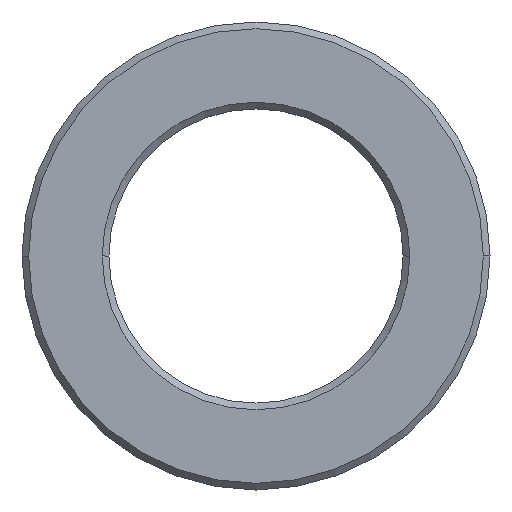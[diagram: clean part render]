
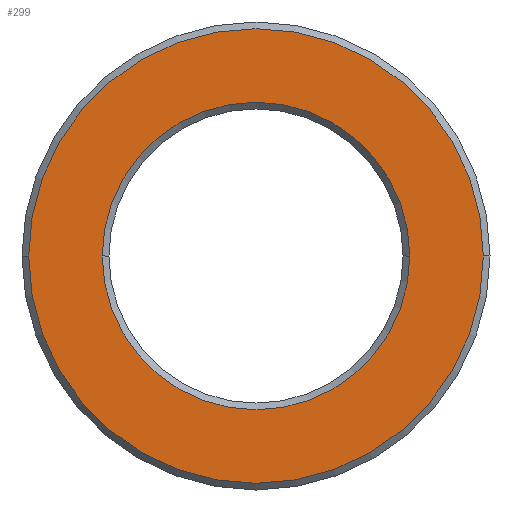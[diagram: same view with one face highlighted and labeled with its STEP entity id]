
A CAD part, left-side view. The second image highlights one B-rep face of the part: STEP entity #299.
In plain terms, the highlighted planar face has unit normal (-1, 0, 0).
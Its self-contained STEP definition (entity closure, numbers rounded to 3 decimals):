
#63 = VERTEX_POINT ( 'NONE', #486 ) ;
#65 = EDGE_CURVE ( 'NONE', #66, #63, #485, .T. ) ;
#66 = VERTEX_POINT ( 'NONE', #480 ) ;
#88 = EDGE_LOOP ( 'NONE', ( #300, #294 ) ) ;
#120 = EDGE_CURVE ( 'NONE', #121, #122, #418, .T. ) ;
#121 = VERTEX_POINT ( 'NONE', #413 ) ;
#122 = VERTEX_POINT ( 'NONE', #412 ) ;
#272 = ORIENTED_EDGE ( 'NONE', *, *, #120, .T. ) ;
#290 = EDGE_LOOP ( 'NONE', ( #291, #272 ) ) ;
#291 = ORIENTED_EDGE ( 'NONE', *, *, #292, .T. ) ;
#292 = EDGE_CURVE ( 'NONE', #122, #121, #795, .T. ) ;
#294 = ORIENTED_EDGE ( 'NONE', *, *, #295, .T. ) ;
#295 = EDGE_CURVE ( 'NONE', #63, #66, #790, .T. ) ;
#299 = ADVANCED_FACE ( 'NONE', ( #785, #784 ), #783, .T. ) ;
#300 = ORIENTED_EDGE ( 'NONE', *, *, #65, .T. ) ;
#412 = CARTESIAN_POINT ( 'NONE',  ( -13.5, 17., 0. ) ) ;
#413 = CARTESIAN_POINT ( 'NONE',  ( -13.5, -17., 0. ) ) ;
#414 = DIRECTION ( 'NONE',  ( 0., -1., 0. ) ) ;
#415 = DIRECTION ( 'NONE',  ( -1., 0., 0. ) ) ;
#416 = CARTESIAN_POINT ( 'NONE',  ( -13.5, 0., 0. ) ) ;
#417 = AXIS2_PLACEMENT_3D ( 'NONE', #416, #415, #414 ) ;
#418 = CIRCLE ( 'NONE', #417, 17. ) ;
#480 = CARTESIAN_POINT ( 'NONE',  ( -13.5, -11.5, 0. ) ) ;
#481 = DIRECTION ( 'NONE',  ( 0., -1., 0. ) ) ;
#482 = DIRECTION ( 'NONE',  ( 1., 0., 0. ) ) ;
#483 = CARTESIAN_POINT ( 'NONE',  ( -13.5, 0., 0. ) ) ;
#484 = AXIS2_PLACEMENT_3D ( 'NONE', #483, #482, #481 ) ;
#485 = CIRCLE ( 'NONE', #484, 11.5 ) ;
#486 = CARTESIAN_POINT ( 'NONE',  ( -13.5, 11.5, 0. ) ) ;
#778 = DIRECTION ( 'NONE',  ( 0., -1., 0. ) ) ;
#779 = DIRECTION ( 'NONE',  ( -1., 0., 0. ) ) ;
#780 = CARTESIAN_POINT ( 'NONE',  ( -13.5, 17.5, 0. ) ) ;
#782 = AXIS2_PLACEMENT_3D ( 'NONE', #780, #779, #778 ) ;
#783 = PLANE ( 'NONE',  #782 ) ;
#784 = FACE_OUTER_BOUND ( 'NONE', #290, .T. ) ;
#785 = FACE_BOUND ( 'NONE', #88, .T. ) ;
#786 = DIRECTION ( 'NONE',  ( 0., -1., 0. ) ) ;
#787 = DIRECTION ( 'NONE',  ( 1., 0., 0. ) ) ;
#788 = CARTESIAN_POINT ( 'NONE',  ( -13.5, 0., 0. ) ) ;
#789 = AXIS2_PLACEMENT_3D ( 'NONE', #788, #787, #786 ) ;
#790 = CIRCLE ( 'NONE', #789, 11.5 ) ;
#791 = DIRECTION ( 'NONE',  ( 0., -1., 0. ) ) ;
#792 = DIRECTION ( 'NONE',  ( -1., 0., 0. ) ) ;
#793 = CARTESIAN_POINT ( 'NONE',  ( -13.5, 0., 0. ) ) ;
#794 = AXIS2_PLACEMENT_3D ( 'NONE', #793, #792, #791 ) ;
#795 = CIRCLE ( 'NONE', #794, 17. ) ;
